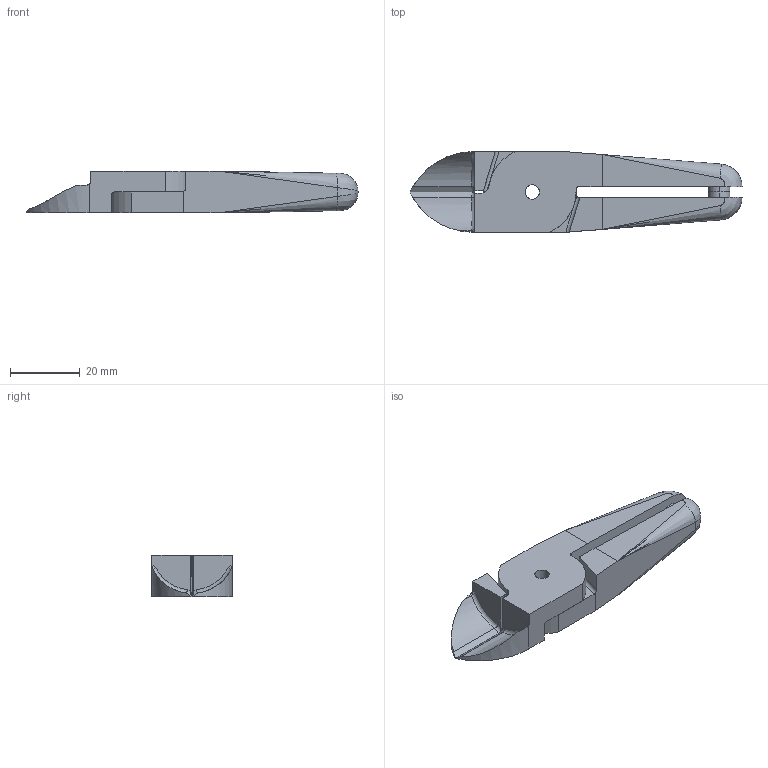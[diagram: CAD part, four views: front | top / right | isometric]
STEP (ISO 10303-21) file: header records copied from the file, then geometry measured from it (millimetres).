
FILE_DESCRIPTION (( 'STEP AP214' ), '1' );
FILE_NAME ('N20AJ.STEP', '2019-11-29T04:00:18', ( '微软用户' ), ( '微软中国' ), 'SwSTEP 2.0', 'SolidWorks 2016', '' );
FILE_SCHEMA (( 'AUTOMOTIVE_DESIGN' ));
Length unit declared in the file: millimetre
Products named in the file (1): N20AJ
Bounding box: 95 x 23 x 12 mm (x, y, z)
Surface area: 8231.6 mm2 (no closed solid volume)
Topology: 0 solids, 4 shells, 83 faces, 230 edges, 147 vertices
Faces by surface type: plane 41, cylinder 28, bspline 14
Entity records: 4314 total; most frequent: CARTESIAN_POINT 2389, ORIENTED_EDGE 432, DIRECTION 329, EDGE_CURVE 226, VERTEX_POINT 147, LINE 123, VECTOR 123, AXIS2_PLACEMENT_3D 103
